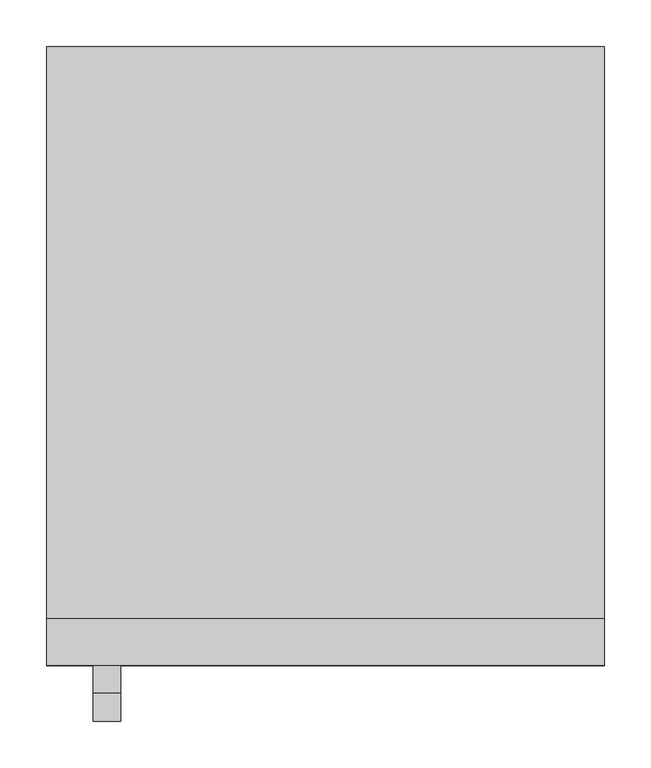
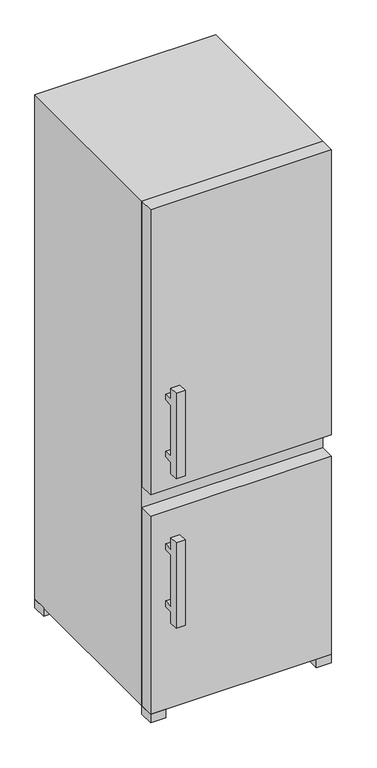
"""IFC4 building model written with IfcOpenShell, lengths in millimetres: proxy geometry, SICBN 3366, SICBN 3356 : SICBN 3366."""

from ifc_helpers import new_model, si_unit, frame, origin, place, context, project, spatial, polyline, outline, extrude, source, transform, mapped, element, save


def specialty_equipment_15201311(model_context):
    return source(origin(), model_context, "Body", "SweptSolid", [
        extrude(outline(polyline([(-724.8345306, -223.1867483), (-694.8345306, -223.1867483), (-694.8345306, -243.1867483), (-724.8345306, -243.1867483), (-724.8345306, -423.1867483), (-694.8345306, -423.1867483), (-694.8345306, -443.1867483), (-724.8345306, -443.1867483), (-724.8345306, -483.1867483), (-754.8345306, -483.1867483), (-754.8345306, -183.1867483), (-724.8345306, -183.1867483), (-724.8345306, -223.1867483)])), frame((-950.0, 0.0, 0.0), z_axis=(1.0, 0.0, 0.0), x_axis=(0.0, 1.0, 0.0)), (0.0, 0.0, 1.0), 30.0),
        extrude(outline(polyline([(-400.0, -694.8345306), (-1000.0, -694.8345306), (-1000.0, -644.8345306), (-400.0, -644.8345306), (-400.0, -694.8345306)])), frame((0.0, 0.0, -803.1867483), z_axis=(0.0, 0.0, 1.0), x_axis=(1.0, 0.0, 0.0)), (0.0, 0.0, 1.0), 695.0),
        extrude(outline(polyline([(-400.0, -644.8345306), (-400.0, -694.8345306), (-450.0, -694.8345306), (-450.0, -644.8345306), (-400.0, -644.8345306)])), frame((0.0, 0.0, -833.1867483), z_axis=(0.0, 0.0, 1.0), x_axis=(1.0, 0.0, 0.0)), (0.0, 0.0, 1.0), 30.0),
        extrude(outline(polyline([(-400.0, -29.8345306), (-400.0, -79.8345306), (-450.0, -79.8345306), (-450.0, -29.8345306), (-400.0, -29.8345306)])), frame((0.0, 0.0, -833.1867483), z_axis=(0.0, 0.0, 1.0), x_axis=(1.0, 0.0, 0.0)), (0.0, 0.0, 1.0), 30.0),
        extrude(outline(polyline([(-950.0, -29.8345306), (-950.0, -79.8345306), (-1000.0, -79.8345306), (-1000.0, -29.8345306), (-950.0, -29.8345306)])), frame((0.0, 0.0, -833.1867483), z_axis=(0.0, 0.0, 1.0), x_axis=(1.0, 0.0, 0.0)), (0.0, 0.0, 1.0), 30.0),
        extrude(outline(polyline([(-950.0, -644.8345306), (-950.0, -694.8345306), (-1000.0, -694.8345306), (-1000.0, -644.8345306), (-950.0, -644.8345306)])), frame((0.0, 0.0, -833.1867483), z_axis=(0.0, 0.0, 1.0), x_axis=(1.0, 0.0, 0.0)), (0.0, 0.0, 1.0), 30.0),
        extrude(outline(polyline([(-724.8345306, 301.8132517), (-694.8345306, 301.8132517), (-694.8345306, 281.8132517), (-724.8345306, 281.8132517), (-724.8345306, 101.8132517), (-694.8345306, 101.8132517), (-694.8345306, 81.8132517), (-724.8345306, 81.8132517), (-724.8345306, 41.8132517), (-754.8345306, 41.8132517), (-754.8345306, 341.8132517), (-724.8345306, 341.8132517), (-724.8345306, 301.8132517)])), frame((-950.0, 0.0, 0.0), z_axis=(1.0, 0.0, 0.0), x_axis=(0.0, 1.0, 0.0)), (0.0, 0.0, 1.0), 30.0),
        extrude(outline(polyline([(-400.0, -694.8345306), (-1000.0, -694.8345306), (-1000.0, -644.8345306), (-400.0, -644.8345306), (-400.0, -694.8345306)])), frame((0.0, 0.0, -33.1867483), z_axis=(0.0, 0.0, 1.0), x_axis=(1.0, 0.0, 0.0)), (0.0, 0.0, 1.0), 1000.0),
        extrude(outline(polyline([(-400.0, -644.8345306), (-1000.0, -644.8345306), (-1000.0, -29.8345306), (-400.0, -29.8345306), (-400.0, -644.8345306)])), frame((0.0, 0.0, -803.1867483), z_axis=(0.0, 0.0, 1.0), x_axis=(1.0, 0.0, 0.0)), (0.0, 0.0, 1.0), 1770.0),
    ])


if __name__ == "__main__":
    model = new_model("IFC4")
    model_context = context("Model", 3, world=origin())
    ifc_project = project(units=[si_unit("LENGTHUNIT", "METRE", prefix="MILLI")], contexts=[model_context])
    site = spatial("IfcSite", under=ifc_project)
    building = spatial("IfcBuilding", under=site)
    placement = place(None, origin())
    specialty_equipment_shape = specialty_equipment_15201311(model_context)
    element("IfcBuildingElementProxy", 1, Name="SICBN 3366, SICBN 3356 : SICBN 3366", ObjectType="SICBN 3366, SICBN 3356 : SICBN 3366", at=placement, inside=building, context=model_context, shape_type="MappedRepresentation", body=[
        mapped(specialty_equipment_shape, transform((0.0, 0.0, 0.0), x_axis=(1.0, 0.0, 0.0), y_axis=(0.0, 1.0, 0.0), z_axis=(0.0, 0.0, 1.0))),
    ])
    save(model, "model.ifc")
